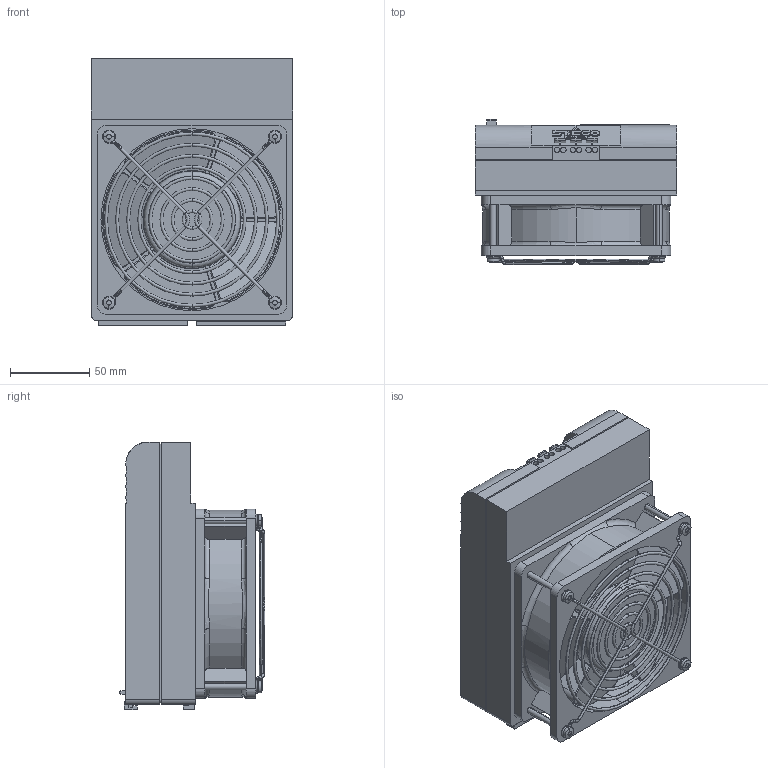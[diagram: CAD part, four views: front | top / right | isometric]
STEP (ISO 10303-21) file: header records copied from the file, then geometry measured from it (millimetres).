
FILE_DESCRIPTION (( 'STEP AP214' ), '1' );
FILE_NAME ('HVI03080.0-00_eplan_08_2013.STEP', '2013-08-19T11:30:59', ( 'Nutzer' ), ( '' ), 'SwSTEP 2.0', 'SolidWorks 2013', '' );
FILE_SCHEMA (( 'AUTOMOTIVE_DESIGN' ));
Length unit declared in the file: millimetre
Products named in the file (1): HVI03080.0-00_eplan_08_2013
Bounding box: 127 x 91.7 x 169 mm (x, y, z)
Volume: 1271370.8 mm3; surface area: 126119.1 mm2
Topology: 4 solids, 4 shells, 962 faces, 2537 edges, 1662 vertices
Faces by surface type: plane 474, cylinder 299, torus 98, bspline 91
Entity records: 33169 total; most frequent: CARTESIAN_POINT 9323, ORIENTED_EDGE 5074, DIRECTION 4802, EDGE_CURVE 2537, AXIS2_PLACEMENT_3D 1665, VERTEX_POINT 1662, VECTOR 1472, LINE 1472
